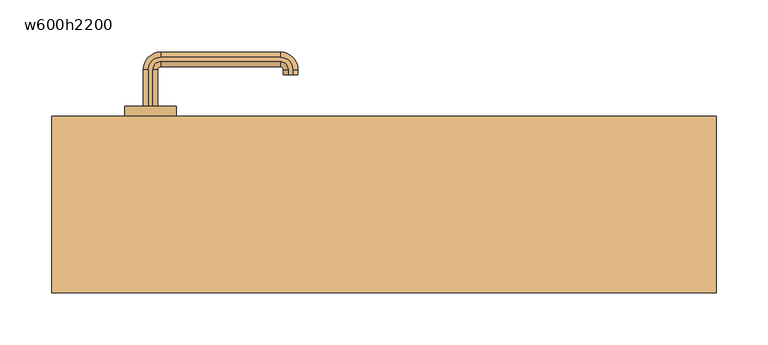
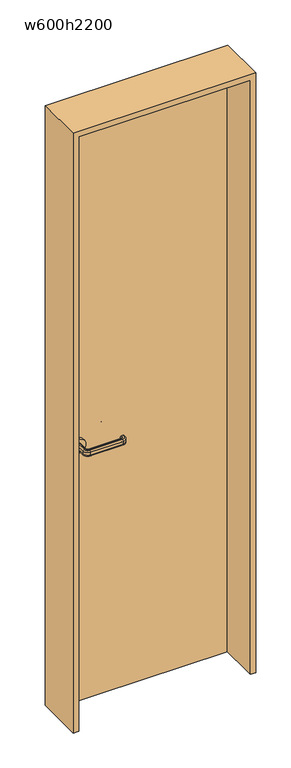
"""IFC4 building model written with IfcOpenShell, lengths in millimetres: door geometry, 片開き : w600h2200."""

from ifc_helpers import new_model, si_unit, point, frame, frame_2d, origin, origin_with_axes, place, context, project, spatial, polyline, circle_curve, ellipse_curve, trimmed, segment, composite_curve, outline, extrude, source, transform, mapped, element, save
from ifc_brep_helpers import plane_surface, cylinder_surface, revolved_surface, advanced_brep


def w600h2200_149d3280(model_context):
    return source(origin(), model_context, "Body", "SolidModel", [
        advanced_brep(
        [(-227.0, 95.0, 960.0), (-232.0, 95.0, 955.0), (-232.0, 95.0, 945.0477623), (-227.0, 95.0, 940.0477623), (-223.0, 95.0, 940.0477623), (-218.0, 95.0, 945.0477623), (-218.0, 95.0, 955.0), (-223.0, 95.0, 960.0), (-227.0, 130.0, 960.0), (-232.0, 130.0, 955.0), (-232.0, 130.0, 945.0477623), (-227.0, 130.0, 940.0477623), (-215.0, 142.0, 940.0477623), (-100.0, 142.0, 940.0477623), (-88.0, 130.0, 940.0477623), (-88.0, 125.0, 940.0477623), (-92.0, 125.0, 940.0477623), (-92.0, 130.0, 940.0477623), (-100.0, 138.0, 940.0477623), (-215.0, 138.0, 940.0477623), (-223.0, 130.0, 940.0477623), (-218.0, 130.0, 945.0477623), (-218.0, 130.0, 955.0), (-223.0, 130.0, 960.0), (-215.0, 138.0, 960.0), (-100.0, 138.0, 960.0), (-92.0, 130.0, 960.0), (-92.0, 125.0, 960.0), (-88.0, 125.0, 960.0), (-88.0, 130.0, 960.0), (-100.0, 142.0, 960.0), (-215.0, 142.0, 960.0), (-215.0, 147.0, 955.0), (-215.0, 147.0, 945.0477623), (-215.0, 133.0, 945.0477623), (-215.0, 133.0, 955.0), (-100.0, 147.0, 955.0), (-100.0, 147.0, 945.0477623), (-100.0, 133.0, 945.0477623), (-100.0, 133.0, 955.0), (-83.0, 130.0, 955.0), (-83.0, 130.0, 945.0477623), (-97.0, 130.0, 945.0477623), (-97.0, 130.0, 955.0), (-97.0, 125.0, 955.0), (-97.0, 125.0, 945.0477623), (-83.0, 125.0, 945.0477623), (-83.0, 125.0, 955.0)],
        [
            (0, 1, circle_curve(frame((-227.0, 95.0, 955.0), z_axis=(0.0, -1.0, 0.0), x_axis=(-1.0, 0.0, 0.0)), 5.0)),
            (1, 2),
            (2, 3, circle_curve(frame((-227.0, 95.0, 945.0477623), z_axis=(0.0, -1.0, 0.0), x_axis=(-1.0, 0.0, 0.0)), 5.0)),
            (3, 4),
            (4, 5, circle_curve(frame((-223.0, 95.0, 945.0477623), z_axis=(0.0, -1.0, 0.0), x_axis=(-1.0, 0.0, 0.0)), 5.0)),
            (5, 6),
            (6, 7, circle_curve(frame((-223.0, 95.0, 955.0), z_axis=(0.0, -1.0, 0.0), x_axis=(-1.0, 0.0, 0.0)), 5.0)),
            (7, 0),
            (0, 8),
            (8, 9, circle_curve(frame((-227.0, 130.0, 955.0), z_axis=(0.0, -1.0, 0.0), x_axis=(-1.0, 0.0, 0.0)), 5.0)),
            (9, 1),
            (9, 10),
            (10, 2),
            (10, 11, circle_curve(frame((-227.0, 130.0, 945.0477623), z_axis=(0.0, -1.0, 0.0), x_axis=(-1.0, 0.0, 0.0)), 5.0)),
            (11, 3),
            (11, 12, circle_curve(frame((-215.0, 130.0, 940.0477623), z_axis=(0.0, 0.0, -1.0), x_axis=(-1.0, 0.0, 0.0)), 12.0)),
            (12, 13),
            (13, 14, circle_curve(frame((-100.0, 130.0, 940.0477623), z_axis=(0.0, 0.0, -1.0), x_axis=(0.0, 1.0, 0.0)), 12.0)),
            (14, 15),
            (15, 16),
            (16, 17),
            (17, 18, circle_curve(frame((-100.0, 130.0, 940.0477623), z_axis=(0.0, 0.0, 1.0), x_axis=(0.0, 1.0, 0.0)), 8.0)),
            (18, 19),
            (19, 20, circle_curve(frame((-215.0, 130.0, 940.0477623), z_axis=(0.0, 0.0, 1.0), x_axis=(-1.0, 0.0, 0.0)), 8.0)),
            (20, 4),
            (20, 21, circle_curve(frame((-223.0, 130.0, 945.0477623), z_axis=(0.0, -1.0, 0.0), x_axis=(-1.0, 0.0, 0.0)), 5.0)),
            (21, 5),
            (21, 22),
            (22, 6),
            (22, 23, circle_curve(frame((-223.0, 130.0, 955.0), z_axis=(0.0, -1.0, 0.0), x_axis=(-1.0, 0.0, 0.0)), 5.0)),
            (23, 7),
            (23, 24, circle_curve(frame((-215.0, 130.0, 960.0), z_axis=(0.0, 0.0, -1.0), x_axis=(-1.0, 0.0, 0.0)), 8.0)),
            (24, 25),
            (25, 26, circle_curve(frame((-100.0, 130.0, 960.0), z_axis=(0.0, 0.0, -1.0), x_axis=(0.0, 1.0, 0.0)), 8.0)),
            (26, 27),
            (27, 28),
            (28, 29),
            (29, 30, circle_curve(frame((-100.0, 130.0, 960.0), z_axis=(0.0, 0.0, 1.0), x_axis=(0.0, 1.0, 0.0)), 12.0)),
            (30, 31),
            (31, 8, circle_curve(frame((-215.0, 130.0, 960.0), z_axis=(0.0, 0.0, 1.0), x_axis=(-1.0, 0.0, 0.0)), 12.0)),
            (32, 9, circle_curve(frame((-215.0, 130.0, 955.0), z_axis=(0.0, 0.0, 1.0), x_axis=(-1.0, 0.0, 0.0)), 17.0)),
            (31, 32, circle_curve(frame((-215.0, 142.0, 955.0), z_axis=(-1.0, 0.0, 0.0), x_axis=(0.0, 1.0, 0.0)), 5.0)),
            (33, 10, circle_curve(frame((-215.0, 130.0, 945.0477623), z_axis=(0.0, 0.0, 1.0), x_axis=(-1.0, 0.0, 0.0)), 17.0)),
            (32, 33),
            (33, 12, circle_curve(frame((-215.0, 142.0, 945.0477623), z_axis=(-1.0, 0.0, 0.0), x_axis=(0.0, 1.0, 0.0)), 5.0)),
            (34, 21, circle_curve(frame((-215.0, 130.0, 945.0477623), z_axis=(0.0, 0.0, 1.0), x_axis=(-1.0, 0.0, 0.0)), 3.0)),
            (19, 34, circle_curve(frame((-215.0, 138.0, 945.0477623), z_axis=(-1.0, 0.0, 0.0), x_axis=(0.0, 1.0, 0.0)), 5.0)),
            (35, 22, circle_curve(frame((-215.0, 130.0, 955.0), z_axis=(0.0, 0.0, 1.0), x_axis=(-1.0, 0.0, 0.0)), 3.0)),
            (34, 35),
            (35, 24, circle_curve(frame((-215.0, 138.0, 955.0), z_axis=(-1.0, 0.0, 0.0), x_axis=(0.0, 1.0, 0.0)), 5.0)),
            (30, 36, circle_curve(frame((-100.0, 142.0, 955.0), z_axis=(-1.0, 0.0, 0.0), x_axis=(0.0, 1.0, 0.0)), 5.0)),
            (36, 32),
            (36, 37),
            (37, 33),
            (37, 13, circle_curve(frame((-100.0, 142.0, 945.0477623), z_axis=(-1.0, 0.0, 0.0), x_axis=(0.0, 1.0, 0.0)), 5.0)),
            (18, 38, circle_curve(frame((-100.0, 138.0, 945.0477623), z_axis=(-1.0, 0.0, 0.0), x_axis=(0.0, 1.0, 0.0)), 5.0)),
            (38, 34),
            (38, 39),
            (39, 35),
            (39, 25, circle_curve(frame((-100.0, 138.0, 955.0), z_axis=(-1.0, 0.0, 0.0), x_axis=(0.0, 1.0, 0.0)), 5.0)),
            (40, 36, circle_curve(frame((-100.0, 130.0, 955.0), z_axis=(0.0, 0.0, 1.0), x_axis=(0.0, 1.0, 0.0)), 17.0)),
            (29, 40, circle_curve(frame((-88.0, 130.0, 955.0), z_axis=(0.0, 1.0, 0.0), x_axis=(1.0, 0.0, 0.0)), 5.0)),
            (41, 37, circle_curve(frame((-100.0, 130.0, 945.0477623), z_axis=(0.0, 0.0, 1.0), x_axis=(0.0, 1.0, 0.0)), 17.0)),
            (40, 41),
            (41, 14, circle_curve(frame((-88.0, 130.0, 945.0477623), z_axis=(0.0, 1.0, 0.0), x_axis=(1.0, 0.0, 0.0)), 5.0)),
            (42, 38, circle_curve(frame((-100.0, 130.0, 945.0477623), z_axis=(0.0, 0.0, 1.0), x_axis=(0.0, 1.0, 0.0)), 3.0)),
            (17, 42, circle_curve(frame((-92.0, 130.0, 945.0477623), z_axis=(0.0, 1.0, 0.0), x_axis=(1.0, 0.0, 0.0)), 5.0)),
            (43, 39, circle_curve(frame((-100.0, 130.0, 955.0), z_axis=(0.0, 0.0, 1.0), x_axis=(0.0, 1.0, 0.0)), 3.0)),
            (42, 43),
            (43, 26, circle_curve(frame((-92.0, 130.0, 955.0), z_axis=(0.0, 1.0, 0.0), x_axis=(1.0, 0.0, 0.0)), 5.0)),
            (27, 44, circle_curve(frame((-92.0, 125.0, 955.0), z_axis=(0.0, -1.0, 0.0), x_axis=(1.0, 0.0, 0.0)), 5.0)),
            (44, 45),
            (45, 16, circle_curve(frame((-92.0, 125.0, 945.0477623), z_axis=(0.0, -1.0, 0.0), x_axis=(1.0, 0.0, 0.0)), 5.0)),
            (15, 46, circle_curve(frame((-88.0, 125.0, 945.0477623), z_axis=(0.0, -1.0, 0.0), x_axis=(1.0, 0.0, 0.0)), 5.0)),
            (46, 47),
            (47, 28, circle_curve(frame((-88.0, 125.0, 955.0), z_axis=(0.0, -1.0, 0.0), x_axis=(1.0, 0.0, 0.0)), 5.0)),
            (47, 40),
            (46, 41),
            (45, 42),
            (44, 43),
        ],
        [
            plane_surface(frame((-235.198039, 95.0, 950.0), z_axis=(0.0, -1.0, 0.0), x_axis=(0.0, 0.0, 1.0))),
            cylinder_surface(frame((-227.0, 95.0, 955.0), z_axis=(0.0, -1.0, 0.0), x_axis=(-1.0, 0.0, 0.0)), 5.0),
            plane_surface(frame((-232.0, 95.0, 955.0), z_axis=(-1.0, 0.0, 0.0), x_axis=(0.0, 1.0, 0.0))),
            cylinder_surface(frame((-227.0, 95.0, 945.0477623), z_axis=(0.0, -1.0, 0.0), x_axis=(-1.0, 0.0, 0.0)), 5.0),
            plane_surface(frame((-227.0, 95.0, 940.0477623), z_axis=(0.0, 0.0, -1.0), x_axis=(0.0, 1.0, 0.0))),
            cylinder_surface(frame((-223.0, 95.0, 945.0477623), z_axis=(0.0, -1.0, 0.0), x_axis=(-1.0, 0.0, 0.0)), 5.0),
            plane_surface(frame((-218.0, 95.0, 945.0477623), z_axis=(1.0, 0.0, 0.0), x_axis=(0.0, 1.0, 0.0))),
            cylinder_surface(frame((-223.0, 95.0, 955.0), z_axis=(0.0, -1.0, 0.0), x_axis=(-1.0, 0.0, 0.0)), 5.0),
            plane_surface(frame((-223.0, 95.0, 960.0), z_axis=(0.0, 0.0, 1.0), x_axis=(0.0, 1.0, 0.0))),
            revolved_surface(trimmed(ellipse_curve(frame((-227.0, 130.0, 955.0), z_axis=(0.0, -1.0, 0.0), x_axis=(-1.0, 0.0, 0.0)), 5.0, 5.0), [point((-227.0, 130.0, 960.0))], [point((-232.0, 130.0, 955.0))], True, "CARTESIAN"), (-215.0, 130.0, 950.0), (0.0, 0.0, -1.0)),
            cylinder_surface(frame((-215.0, 130.0, 950.0), z_axis=(0.0, 0.0, -1.0), x_axis=(-1.0, 0.0, 0.0)), 17.0),
            revolved_surface(trimmed(ellipse_curve(frame((-227.0, 130.0, 945.0477623), z_axis=(0.0, -1.0, 0.0), x_axis=(-1.0, 0.0, 0.0)), 5.0, 5.0), [point((-232.0, 130.0, 945.0477623))], [point((-227.0, 130.0, 940.0477623))], True, "CARTESIAN"), (-215.0, 130.0, 950.0), (0.0, 0.0, -1.0)),
            revolved_surface(trimmed(ellipse_curve(frame((-223.0, 130.0, 945.0477623), z_axis=(0.0, -1.0, 0.0), x_axis=(-1.0, 0.0, 0.0)), 5.0, 5.0), [point((-223.0, 130.0, 940.0477623))], [point((-218.0, 130.0, 945.0477623))], True, "CARTESIAN"), (-215.0, 130.0, 950.0), (0.0, 0.0, -1.0)),
            revolved_surface(polyline([(-218.0, 130.0, 945.0477623), (-218.0, 130.0, 955.0)]), (-215.0, 130.0, 950.0), (0.0, 0.0, -1.0)),
            revolved_surface(trimmed(ellipse_curve(frame((-223.0, 130.0, 955.0), z_axis=(0.0, -1.0, 0.0), x_axis=(-1.0, 0.0, 0.0)), 5.0, 5.0), [point((-218.0, 130.0, 955.0))], [point((-223.0, 130.0, 960.0))], True, "CARTESIAN"), (-215.0, 130.0, 950.0), (0.0, 0.0, -1.0)),
            cylinder_surface(frame((-215.0, 142.0, 955.0), z_axis=(-1.0, 0.0, 0.0), x_axis=(0.0, 1.0, 0.0)), 5.0),
            plane_surface(frame((-215.0, 147.0, 955.0), z_axis=(0.0, 1.0, 0.0), x_axis=(1.0, 0.0, 0.0))),
            cylinder_surface(frame((-215.0, 142.0, 945.0477623), z_axis=(-1.0, 0.0, 0.0), x_axis=(0.0, 1.0, 0.0)), 5.0),
            cylinder_surface(frame((-215.0, 138.0, 945.0477623), z_axis=(-1.0, 0.0, 0.0), x_axis=(0.0, 1.0, 0.0)), 5.0),
            plane_surface(frame((-215.0, 133.0, 945.0477623), z_axis=(0.0, -1.0, 0.0), x_axis=(1.0, 0.0, 0.0))),
            cylinder_surface(frame((-215.0, 138.0, 955.0), z_axis=(-1.0, 0.0, 0.0), x_axis=(0.0, 1.0, 0.0)), 5.0),
            revolved_surface(trimmed(ellipse_curve(frame((-100.0, 142.0, 955.0), z_axis=(-1.0, 0.0, 0.0), x_axis=(0.0, 1.0, 0.0)), 5.0, 5.0), [point((-100.0, 142.0, 960.0))], [point((-100.0, 147.0, 955.0))], True, "CARTESIAN"), (-100.0, 130.0, 950.0), (0.0, 0.0, -1.0)),
            cylinder_surface(frame((-100.0, 130.0, 950.0), z_axis=(0.0, 0.0, -1.0), x_axis=(0.0, 1.0, 0.0)), 17.0),
            revolved_surface(trimmed(ellipse_curve(frame((-100.0, 142.0, 945.0477623), z_axis=(-1.0, 0.0, 0.0), x_axis=(0.0, 1.0, 0.0)), 5.0, 5.0), [point((-100.0, 147.0, 945.0477623))], [point((-100.0, 142.0, 940.0477623))], True, "CARTESIAN"), (-100.0, 130.0, 950.0), (0.0, 0.0, -1.0)),
            revolved_surface(trimmed(ellipse_curve(frame((-100.0, 138.0, 945.0477623), z_axis=(-1.0, 0.0, 0.0), x_axis=(0.0, 1.0, 0.0)), 5.0, 5.0), [point((-100.0, 138.0, 940.0477623))], [point((-100.0, 133.0, 945.0477623))], True, "CARTESIAN"), (-100.0, 130.0, 950.0), (0.0, 0.0, -1.0)),
            revolved_surface(polyline([(-100.0, 133.0, 945.0477623), (-100.0, 133.0, 955.0)]), (-100.0, 130.0, 950.0), (0.0, 0.0, -1.0)),
            revolved_surface(trimmed(ellipse_curve(frame((-100.0, 138.0, 955.0), z_axis=(-1.0, 0.0, 0.0), x_axis=(0.0, 1.0, 0.0)), 5.0, 5.0), [point((-100.0, 133.0, 955.0))], [point((-100.0, 138.0, 960.0))], True, "CARTESIAN"), (-100.0, 130.0, 950.0), (0.0, 0.0, -1.0)),
            plane_surface(frame((-100.198039, 125.0, 950.0), z_axis=(0.0, -1.0, 0.0), x_axis=(0.0, 0.0, -1.0))),
            cylinder_surface(frame((-88.0, 130.0, 955.0), z_axis=(0.0, 1.0, 0.0), x_axis=(1.0, 0.0, 0.0)), 5.0),
            plane_surface(frame((-83.0, 130.0, 955.0), z_axis=(1.0, 0.0, 0.0), x_axis=(0.0, -1.0, 0.0))),
            cylinder_surface(frame((-88.0, 130.0, 945.0477623), z_axis=(0.0, 1.0, 0.0), x_axis=(1.0, 0.0, 0.0)), 5.0),
            cylinder_surface(frame((-92.0, 130.0, 945.0477623), z_axis=(0.0, 1.0, 0.0), x_axis=(1.0, 0.0, 0.0)), 5.0),
            plane_surface(frame((-97.0, 130.0, 945.0477623), z_axis=(-1.0, 0.0, 0.0), x_axis=(0.0, -1.0, 0.0))),
            cylinder_surface(frame((-92.0, 130.0, 955.0), z_axis=(0.0, 1.0, 0.0), x_axis=(1.0, 0.0, 0.0)), 5.0),
        ],
        [
            (0, [[1, 2, 3, 4, 5, 6, 7, 8]]),
            (1, [[-1, 9, 10, 11]]),
            (2, [[-2, -11, 12, 13]]),
            (3, [[-3, -13, 14, 15]]),
            (4, [[-4, -15, 16, 17, 18, 19, 20, 21, 22, 23, 24, 25]]),
            (5, [[-5, -25, 26, 27]]),
            (6, [[-6, -27, 28, 29]]),
            (7, [[-7, -29, 30, 31]]),
            (8, [[-8, -31, 32, 33, 34, 35, 36, 37, 38, 39, 40, -9]]),
            (9, [[41, -10, -40, 42]]),
            (10, [[43, -12, -41, 44]]),
            (11, [[-16, -14, -43, 45]]),
            (12, [[46, -26, -24, 47]]),
            (13, [[48, -28, -46, 49]]),
            (14, [[-32, -30, -48, 50]]),
            (15, [[-42, -39, 51, 52]]),
            (16, [[-44, -52, 53, 54]]),
            (17, [[-45, -54, 55, -17]]),
            (18, [[-47, -23, 56, 57]]),
            (19, [[-49, -57, 58, 59]]),
            (20, [[-50, -59, 60, -33]]),
            (21, [[61, -51, -38, 62]]),
            (22, [[63, -53, -61, 64]]),
            (23, [[-18, -55, -63, 65]]),
            (24, [[66, -56, -22, 67]]),
            (25, [[68, -58, -66, 69]]),
            (26, [[-34, -60, -68, 70]]),
            (27, [[-36, 71, 72, 73, -20, 74, 75, 76]]),
            (28, [[-62, -37, -76, 77]]),
            (29, [[-64, -77, -75, 78]]),
            (30, [[-65, -78, -74, -19]]),
            (31, [[-67, -21, -73, 79]]),
            (32, [[-69, -79, -72, 80]]),
            (33, [[-70, -80, -71, -35]]),
        ],
    ),
        advanced_brep(
        [(-223.0, 45.0, 940.0), (-227.0, 45.0, 940.0), (-232.0, 45.0, 945.0), (-232.0, 45.0, 955.0), (-227.0, 45.0, 960.0), (-223.0, 45.0, 960.0), (-218.0, 45.0, 955.0), (-218.0, 45.0, 945.0), (-223.0, 10.0, 940.0), (-215.0, 2.0, 940.0), (-100.0, 2.0, 940.0), (-92.0, 10.0, 940.0), (-92.0, 15.0, 940.0), (-88.0, 15.0, 940.0), (-88.0, 10.0, 940.0), (-100.0, -2.0, 940.0), (-215.0, -2.0, 940.0), (-227.0, 10.0, 940.0), (-232.0, 10.0, 945.0), (-232.0, 10.0, 955.0), (-227.0, 10.0, 960.0), (-215.0, -2.0, 960.0), (-100.0, -2.0, 960.0), (-88.0, 10.0, 960.0), (-88.0, 15.0, 960.0), (-92.0, 15.0, 960.0), (-92.0, 10.0, 960.0), (-100.0, 2.0, 960.0), (-215.0, 2.0, 960.0), (-223.0, 10.0, 960.0), (-218.0, 10.0, 955.0), (-218.0, 10.0, 945.0), (-215.0, -7.0, 945.0), (-215.0, -7.0, 955.0), (-215.0, 7.0, 955.0), (-215.0, 7.0, 945.0), (-100.0, -7.0, 945.0), (-100.0, -7.0, 955.0), (-100.0, 7.0, 955.0), (-100.0, 7.0, 945.0), (-83.0, 10.0, 945.0), (-83.0, 10.0, 955.0), (-97.0, 10.0, 955.0), (-97.0, 10.0, 945.0), (-97.0, 15.0, 945.0), (-97.0, 15.0, 955.0), (-83.0, 15.0, 955.0), (-83.0, 15.0, 945.0)],
        [
            (0, 1),
            (1, 2, circle_curve(frame((-227.0, 45.0, 945.0), z_axis=(0.0, 1.0, 0.0), x_axis=(1.0, 0.0, 0.0)), 5.0)),
            (2, 3),
            (3, 4, circle_curve(frame((-227.0, 45.0, 955.0), z_axis=(0.0, 1.0, 0.0), x_axis=(1.0, 0.0, 0.0)), 5.0)),
            (4, 5),
            (5, 6, circle_curve(frame((-223.0, 45.0, 955.0), z_axis=(0.0, 1.0, 0.0), x_axis=(1.0, 0.0, 0.0)), 5.0)),
            (6, 7),
            (7, 0, circle_curve(frame((-223.0, 45.0, 945.0), z_axis=(0.0, 1.0, 0.0), x_axis=(1.0, 0.0, 0.0)), 5.0)),
            (0, 8),
            (8, 9, circle_curve(frame((-215.0, 10.0, 940.0), z_axis=(0.0, 0.0, 1.0), x_axis=(-1.0, 0.0, 0.0)), 8.0)),
            (9, 10),
            (10, 11, circle_curve(frame((-100.0, 10.0, 940.0), z_axis=(0.0, 0.0, 1.0), x_axis=(0.0, -1.0, 0.0)), 8.0)),
            (11, 12),
            (12, 13),
            (13, 14),
            (14, 15, circle_curve(frame((-100.0, 10.0, 940.0), z_axis=(0.0, 0.0, -1.0), x_axis=(0.0, -1.0, 0.0)), 12.0)),
            (15, 16),
            (16, 17, circle_curve(frame((-215.0, 10.0, 940.0), z_axis=(0.0, 0.0, -1.0), x_axis=(-1.0, 0.0, 0.0)), 12.0)),
            (17, 1),
            (17, 18, circle_curve(frame((-227.0, 10.0, 945.0), z_axis=(0.0, 1.0, 0.0), x_axis=(1.0, 0.0, 0.0)), 5.0)),
            (18, 2),
            (18, 19),
            (19, 3),
            (19, 20, circle_curve(frame((-227.0, 10.0, 955.0), z_axis=(0.0, 1.0, 0.0), x_axis=(1.0, 0.0, 0.0)), 5.0)),
            (20, 4),
            (20, 21, circle_curve(frame((-215.0, 10.0, 960.0), z_axis=(0.0, 0.0, 1.0), x_axis=(-1.0, 0.0, 0.0)), 12.0)),
            (21, 22),
            (22, 23, circle_curve(frame((-100.0, 10.0, 960.0), z_axis=(0.0, 0.0, 1.0), x_axis=(0.0, -1.0, 0.0)), 12.0)),
            (23, 24),
            (24, 25),
            (25, 26),
            (26, 27, circle_curve(frame((-100.0, 10.0, 960.0), z_axis=(0.0, 0.0, -1.0), x_axis=(0.0, -1.0, 0.0)), 8.0)),
            (27, 28),
            (28, 29, circle_curve(frame((-215.0, 10.0, 960.0), z_axis=(0.0, 0.0, -1.0), x_axis=(-1.0, 0.0, 0.0)), 8.0)),
            (29, 5),
            (29, 30, circle_curve(frame((-223.0, 10.0, 955.0), z_axis=(0.0, 1.0, 0.0), x_axis=(1.0, 0.0, 0.0)), 5.0)),
            (30, 6),
            (30, 31),
            (31, 7),
            (31, 8, circle_curve(frame((-223.0, 10.0, 945.0), z_axis=(0.0, 1.0, 0.0), x_axis=(1.0, 0.0, 0.0)), 5.0)),
            (32, 18, circle_curve(frame((-215.0, 10.0, 945.0), z_axis=(0.0, 0.0, -1.0), x_axis=(-1.0, 0.0, 0.0)), 17.0)),
            (16, 32, circle_curve(frame((-215.0, -2.0, 945.0), z_axis=(-1.0, 0.0, 0.0), x_axis=(0.0, 1.0, 0.0)), 5.0)),
            (33, 19, circle_curve(frame((-215.0, 10.0, 955.0), z_axis=(0.0, 0.0, -1.0), x_axis=(-1.0, 0.0, 0.0)), 17.0)),
            (32, 33),
            (33, 21, circle_curve(frame((-215.0, -2.0, 955.0), z_axis=(-1.0, 0.0, 0.0), x_axis=(0.0, 1.0, 0.0)), 5.0)),
            (34, 30, circle_curve(frame((-215.0, 10.0, 955.0), z_axis=(0.0, 0.0, -1.0), x_axis=(-1.0, 0.0, 0.0)), 3.0)),
            (28, 34, circle_curve(frame((-215.0, 2.0, 955.0), z_axis=(-1.0, 0.0, 0.0), x_axis=(0.0, 1.0, 0.0)), 5.0)),
            (35, 31, circle_curve(frame((-215.0, 10.0, 945.0), z_axis=(0.0, 0.0, -1.0), x_axis=(-1.0, 0.0, 0.0)), 3.0)),
            (34, 35),
            (35, 9, circle_curve(frame((-215.0, 2.0, 945.0), z_axis=(-1.0, 0.0, 0.0), x_axis=(0.0, 1.0, 0.0)), 5.0)),
            (15, 36, circle_curve(frame((-100.0, -2.0, 945.0), z_axis=(-1.0, 0.0, 0.0), x_axis=(0.0, 1.0, 0.0)), 5.0)),
            (36, 32),
            (36, 37),
            (37, 33),
            (37, 22, circle_curve(frame((-100.0, -2.0, 955.0), z_axis=(-1.0, 0.0, 0.0), x_axis=(0.0, 1.0, 0.0)), 5.0)),
            (27, 38, circle_curve(frame((-100.0, 2.0, 955.0), z_axis=(-1.0, 0.0, 0.0), x_axis=(0.0, 1.0, 0.0)), 5.0)),
            (38, 34),
            (38, 39),
            (39, 35),
            (39, 10, circle_curve(frame((-100.0, 2.0, 945.0), z_axis=(-1.0, 0.0, 0.0), x_axis=(0.0, 1.0, 0.0)), 5.0)),
            (40, 36, circle_curve(frame((-100.0, 10.0, 945.0), z_axis=(0.0, 0.0, -1.0), x_axis=(0.0, -1.0, 0.0)), 17.0)),
            (14, 40, circle_curve(frame((-88.0, 10.0, 945.0), z_axis=(0.0, -1.0, 0.0), x_axis=(-1.0, 0.0, 0.0)), 5.0)),
            (41, 37, circle_curve(frame((-100.0, 10.0, 955.0), z_axis=(0.0, 0.0, -1.0), x_axis=(0.0, -1.0, 0.0)), 17.0)),
            (40, 41),
            (41, 23, circle_curve(frame((-88.0, 10.0, 955.0), z_axis=(0.0, -1.0, 0.0), x_axis=(-1.0, 0.0, 0.0)), 5.0)),
            (42, 38, circle_curve(frame((-100.0, 10.0, 955.0), z_axis=(0.0, 0.0, -1.0), x_axis=(0.0, -1.0, 0.0)), 3.0)),
            (26, 42, circle_curve(frame((-92.0, 10.0, 955.0), z_axis=(0.0, -1.0, 0.0), x_axis=(-1.0, 0.0, 0.0)), 5.0)),
            (43, 39, circle_curve(frame((-100.0, 10.0, 945.0), z_axis=(0.0, 0.0, -1.0), x_axis=(0.0, -1.0, 0.0)), 3.0)),
            (42, 43),
            (43, 11, circle_curve(frame((-92.0, 10.0, 945.0), z_axis=(0.0, -1.0, 0.0), x_axis=(-1.0, 0.0, 0.0)), 5.0)),
            (12, 44, circle_curve(frame((-92.0, 15.0, 945.0), z_axis=(0.0, 1.0, 0.0), x_axis=(-1.0, 0.0, 0.0)), 5.0)),
            (44, 45),
            (45, 25, circle_curve(frame((-92.0, 15.0, 955.0), z_axis=(0.0, 1.0, 0.0), x_axis=(-1.0, 0.0, 0.0)), 5.0)),
            (24, 46, circle_curve(frame((-88.0, 15.0, 955.0), z_axis=(0.0, 1.0, 0.0), x_axis=(-1.0, 0.0, 0.0)), 5.0)),
            (46, 47),
            (47, 13, circle_curve(frame((-88.0, 15.0, 945.0), z_axis=(0.0, 1.0, 0.0), x_axis=(-1.0, 0.0, 0.0)), 5.0)),
            (47, 40),
            (46, 41),
            (45, 42),
            (44, 43),
        ],
        [
            plane_surface(frame((-235.198039, 45.0, 950.0), z_axis=(0.0, 1.0, 0.0), x_axis=(0.0, 0.0, -1.0))),
            plane_surface(frame((-223.0, 45.0, 940.0), z_axis=(0.0, 0.0, -1.0), x_axis=(0.0, -1.0, 0.0))),
            cylinder_surface(frame((-227.0, 45.0, 945.0), z_axis=(0.0, 1.0, 0.0), x_axis=(1.0, 0.0, 0.0)), 5.0),
            plane_surface(frame((-232.0, 45.0, 945.0), z_axis=(-1.0, 0.0, 0.0), x_axis=(0.0, -1.0, 0.0))),
            cylinder_surface(frame((-227.0, 45.0, 955.0), z_axis=(0.0, 1.0, 0.0), x_axis=(1.0, 0.0, 0.0)), 5.0),
            plane_surface(frame((-227.0, 45.0, 960.0), z_axis=(0.0, 0.0, 1.0), x_axis=(0.0, -1.0, 0.0))),
            cylinder_surface(frame((-223.0, 45.0, 955.0), z_axis=(0.0, 1.0, 0.0), x_axis=(1.0, 0.0, 0.0)), 5.0),
            plane_surface(frame((-218.0, 45.0, 955.0), z_axis=(1.0, 0.0, 0.0), x_axis=(0.0, -1.0, 0.0))),
            cylinder_surface(frame((-223.0, 45.0, 945.0), z_axis=(0.0, 1.0, 0.0), x_axis=(1.0, 0.0, 0.0)), 5.0),
            revolved_surface(trimmed(ellipse_curve(frame((-227.0, 10.0, 945.0), z_axis=(0.0, 1.0, 0.0), x_axis=(1.0, 0.0, 0.0)), 5.0, 5.0), [point((-227.0, 10.0, 940.0))], [point((-232.0, 10.0, 945.0))], True, "CARTESIAN"), (-215.0, 10.0, 950.0), (0.0, 0.0, 1.0)),
            cylinder_surface(frame((-215.0, 10.0, 950.0), z_axis=(0.0, 0.0, 1.0), x_axis=(-1.0, 0.0, 0.0)), 17.0),
            revolved_surface(trimmed(ellipse_curve(frame((-227.0, 10.0, 955.0), z_axis=(0.0, 1.0, 0.0), x_axis=(1.0, 0.0, 0.0)), 5.0, 5.0), [point((-232.0, 10.0, 955.0))], [point((-227.0, 10.0, 960.0))], True, "CARTESIAN"), (-215.0, 10.0, 950.0), (0.0, 0.0, 1.0)),
            revolved_surface(trimmed(ellipse_curve(frame((-223.0, 10.0, 955.0), z_axis=(0.0, 1.0, 0.0), x_axis=(1.0, 0.0, 0.0)), 5.0, 5.0), [point((-223.0, 10.0, 960.0))], [point((-218.0, 10.0, 955.0))], True, "CARTESIAN"), (-215.0, 10.0, 950.0), (0.0, 0.0, 1.0)),
            revolved_surface(polyline([(-218.0, 10.0, 955.0), (-218.0, 10.0, 945.0)]), (-215.0, 10.0, 950.0), (0.0, 0.0, 1.0)),
            revolved_surface(trimmed(ellipse_curve(frame((-223.0, 10.0, 945.0), z_axis=(0.0, 1.0, 0.0), x_axis=(1.0, 0.0, 0.0)), 5.0, 5.0), [point((-218.0, 10.0, 945.0))], [point((-223.0, 10.0, 940.0))], True, "CARTESIAN"), (-215.0, 10.0, 950.0), (0.0, 0.0, 1.0)),
            cylinder_surface(frame((-215.0, -2.0, 945.0), z_axis=(-1.0, 0.0, 0.0), x_axis=(0.0, 1.0, 0.0)), 5.0),
            plane_surface(frame((-215.0, -7.0, 945.0), z_axis=(0.0, -1.0, 0.0), x_axis=(1.0, 0.0, 0.0))),
            cylinder_surface(frame((-215.0, -2.0, 955.0), z_axis=(-1.0, 0.0, 0.0), x_axis=(0.0, 1.0, 0.0)), 5.0),
            cylinder_surface(frame((-215.0, 2.0, 955.0), z_axis=(-1.0, 0.0, 0.0), x_axis=(0.0, 1.0, 0.0)), 5.0),
            plane_surface(frame((-215.0, 7.0, 955.0), z_axis=(0.0, 1.0, 0.0), x_axis=(1.0, 0.0, 0.0))),
            cylinder_surface(frame((-215.0, 2.0, 945.0), z_axis=(-1.0, 0.0, 0.0), x_axis=(0.0, 1.0, 0.0)), 5.0),
            revolved_surface(trimmed(ellipse_curve(frame((-100.0, -2.0, 945.0), z_axis=(-1.0, 0.0, 0.0), x_axis=(0.0, 1.0, 0.0)), 5.0, 5.0), [point((-100.0, -2.0, 940.0))], [point((-100.0, -7.0, 945.0))], True, "CARTESIAN"), (-100.0, 10.0, 950.0), (0.0, 0.0, 1.0)),
            cylinder_surface(frame((-100.0, 10.0, 950.0), z_axis=(0.0, 0.0, 1.0), x_axis=(0.0, -1.0, 0.0)), 17.0),
            revolved_surface(trimmed(ellipse_curve(frame((-100.0, -2.0, 955.0), z_axis=(-1.0, 0.0, 0.0), x_axis=(0.0, 1.0, 0.0)), 5.0, 5.0), [point((-100.0, -7.0, 955.0))], [point((-100.0, -2.0, 960.0))], True, "CARTESIAN"), (-100.0, 10.0, 950.0), (0.0, 0.0, 1.0)),
            revolved_surface(trimmed(ellipse_curve(frame((-100.0, 2.0, 955.0), z_axis=(-1.0, 0.0, 0.0), x_axis=(0.0, 1.0, 0.0)), 5.0, 5.0), [point((-100.0, 2.0, 960.0))], [point((-100.0, 7.0, 955.0))], True, "CARTESIAN"), (-100.0, 10.0, 950.0), (0.0, 0.0, 1.0)),
            revolved_surface(polyline([(-100.0, 7.0, 955.0), (-100.0, 7.0, 945.0)]), (-100.0, 10.0, 950.0), (0.0, 0.0, 1.0)),
            revolved_surface(trimmed(ellipse_curve(frame((-100.0, 2.0, 945.0), z_axis=(-1.0, 0.0, 0.0), x_axis=(0.0, 1.0, 0.0)), 5.0, 5.0), [point((-100.0, 7.0, 945.0))], [point((-100.0, 2.0, 940.0))], True, "CARTESIAN"), (-100.0, 10.0, 950.0), (0.0, 0.0, 1.0)),
            plane_surface(frame((-100.198039, 15.0, 950.0), z_axis=(0.0, 1.0, 0.0), x_axis=(0.0, 0.0, 1.0))),
            cylinder_surface(frame((-88.0, 10.0, 945.0), z_axis=(0.0, -1.0, 0.0), x_axis=(-1.0, 0.0, 0.0)), 5.0),
            plane_surface(frame((-83.0, 10.0, 945.0), z_axis=(1.0, 0.0, 0.0), x_axis=(0.0, 1.0, 0.0))),
            cylinder_surface(frame((-88.0, 10.0, 955.0), z_axis=(0.0, -1.0, 0.0), x_axis=(-1.0, 0.0, 0.0)), 5.0),
            cylinder_surface(frame((-92.0, 10.0, 955.0), z_axis=(0.0, -1.0, 0.0), x_axis=(-1.0, 0.0, 0.0)), 5.0),
            plane_surface(frame((-97.0, 10.0, 955.0), z_axis=(-1.0, 0.0, 0.0), x_axis=(0.0, 1.0, 0.0))),
            cylinder_surface(frame((-92.0, 10.0, 945.0), z_axis=(0.0, -1.0, 0.0), x_axis=(-1.0, 0.0, 0.0)), 5.0),
        ],
        [
            (0, [[1, 2, 3, 4, 5, 6, 7, 8]]),
            (1, [[-1, 9, 10, 11, 12, 13, 14, 15, 16, 17, 18, 19]]),
            (2, [[-2, -19, 20, 21]]),
            (3, [[-3, -21, 22, 23]]),
            (4, [[-4, -23, 24, 25]]),
            (5, [[-5, -25, 26, 27, 28, 29, 30, 31, 32, 33, 34, 35]]),
            (6, [[-6, -35, 36, 37]]),
            (7, [[-7, -37, 38, 39]]),
            (8, [[-8, -39, 40, -9]]),
            (9, [[41, -20, -18, 42]]),
            (10, [[43, -22, -41, 44]]),
            (11, [[-26, -24, -43, 45]]),
            (12, [[46, -36, -34, 47]]),
            (13, [[48, -38, -46, 49]]),
            (14, [[-10, -40, -48, 50]]),
            (15, [[-42, -17, 51, 52]]),
            (16, [[-44, -52, 53, 54]]),
            (17, [[-45, -54, 55, -27]]),
            (18, [[-47, -33, 56, 57]]),
            (19, [[-49, -57, 58, 59]]),
            (20, [[-50, -59, 60, -11]]),
            (21, [[61, -51, -16, 62]]),
            (22, [[63, -53, -61, 64]]),
            (23, [[-28, -55, -63, 65]]),
            (24, [[66, -56, -32, 67]]),
            (25, [[68, -58, -66, 69]]),
            (26, [[-12, -60, -68, 70]]),
            (27, [[71, 72, 73, -30, 74, 75, 76, -14]]),
            (28, [[-62, -15, -76, 77]]),
            (29, [[-64, -77, -75, 78]]),
            (30, [[-65, -78, -74, -29]]),
            (31, [[-67, -31, -73, 79]]),
            (32, [[-69, -79, -72, 80]]),
            (33, [[-70, -80, -71, -13]]),
        ],
    ),
        extrude(outline(composite_curve([segment(trimmed(circle_curve(frame_2d((950.0, -225.0)), 25.0), [point((950.0, -250.0))], [point((950.0, -200.0))], False, "CARTESIAN"), True, "CONTINUOUS"), segment(trimmed(circle_curve(frame_2d((950.0, -225.0)), 25.0), [point((950.0, -200.0))], [point((950.0, -250.0))], False, "CARTESIAN"), True, "CONTINUOUS")], self_intersect=False)), frame((0.0, 85.0, 0.0), z_axis=(0.0, 1.0, 0.0), x_axis=(0.0, 0.0, 1.0)), (0.0, 0.0, 1.0), 10.0),
        extrude(outline(composite_curve([segment(trimmed(circle_curve(frame_2d((950.0, -225.0)), 25.0), [point((950.0, -250.0))], [point((950.0, -200.0))], False, "CARTESIAN"), True, "CONTINUOUS"), segment(trimmed(circle_curve(frame_2d((950.0, -225.0)), 25.0), [point((950.0, -200.0))], [point((950.0, -250.0))], False, "CARTESIAN"), True, "CONTINUOUS")], self_intersect=False)), frame((0.0, 45.0, 0.0), z_axis=(0.0, 1.0, 0.0), x_axis=(0.0, 0.0, 1.0)), (0.0, 0.0, 1.0), 10.0),
        extrude(outline(polyline([(2220.0, -320.0), (0.0, -320.0), (0.0, -300.0), (2200.0, -300.0), (2200.0, 300.0), (0.0, 300.0), (0.0, 320.0), (2220.0, 320.0), (2220.0, -320.0)])), frame((0.0, -85.0, 0.0), z_axis=(0.0, 1.0, 0.0), x_axis=(0.0, 0.0, 1.0)), (0.0, 0.0, 1.0), 170.0),
        extrude(outline(polyline([(300.0, 55.0), (-300.0, 55.0), (-300.0, 85.0), (300.0, 85.0), (300.0, 55.0)])), origin_with_axes(), (0.0, 0.0, 1.0), 2200.0),
    ])


if __name__ == "__main__":
    model = new_model("IFC4")
    model_context = context("Model", 3, world=origin())
    ifc_project = project(units=[si_unit("LENGTHUNIT", "METRE", prefix="MILLI")], contexts=[model_context])
    site = spatial("IfcSite", under=ifc_project)
    building = spatial("IfcBuilding", under=site)
    placement = place(None, origin())
    w600h2200_shape = w600h2200_149d3280(model_context)
    element("IfcDoor", 1, ObjectType="片開き : w600h2200", at=placement, inside=building, context=model_context, shape_type="MappedRepresentation", body=[
        mapped(w600h2200_shape, transform((0.0, 0.0, 0.0), x_axis=(1.0, 0.0, 0.0), y_axis=(0.0, 1.0, 0.0), z_axis=(0.0, 0.0, 1.0))),
    ])
    save(model, "model.ifc")
